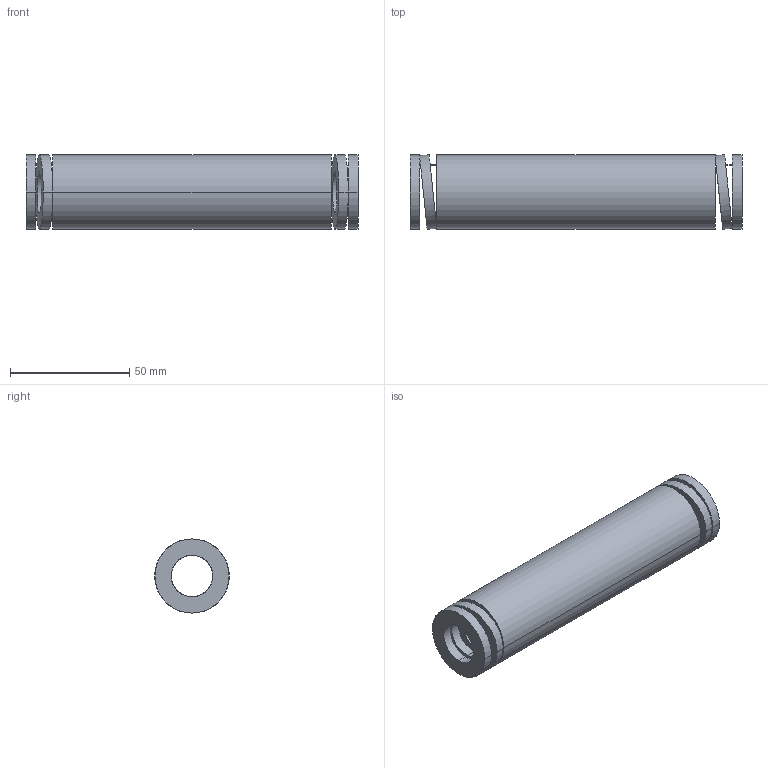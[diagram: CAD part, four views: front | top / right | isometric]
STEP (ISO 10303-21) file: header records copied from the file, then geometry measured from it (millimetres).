
FILE_DESCRIPTION(('CATIA V5 STEP Exchange'),'2;1');
FILE_NAME('C:\Users\Utente\Desktop\IO LAVORO\3D X SITO CF\X SITO\3D files 392B\392-B32-139.stp','2021-08-13T08:52:27+00:00',('none'),('none'),'CATIA Version 5 Release 20 GA (IN-10)','CATIA V5 STEP AP203','none');
FILE_SCHEMA(('CONFIG_CONTROL_DESIGN'));
Length unit declared in the file: millimetre
Products named in the file (1): 392-B32-139
Bounding box: 139 x 31.25 x 31 mm (x, y, z)
Volume: 68461.4 mm3; surface area: 25309.5 mm2
Topology: 1 solids, 1 shells, 38 faces, 92 edges, 64 vertices
Faces by surface type: cylinder 28, plane 10
Entity records: 1560 total; most frequent: CARTESIAN_POINT 667, ORIENTED_EDGE 184, DIRECTION 131, EDGE_CURVE 92, AXIS2_PLACEMENT_3D 66, VERTEX_POINT 64, EDGE_LOOP 56, ADVANCED_FACE 38
